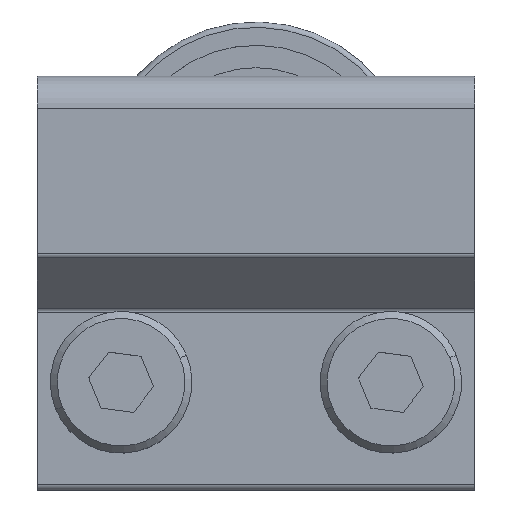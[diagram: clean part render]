
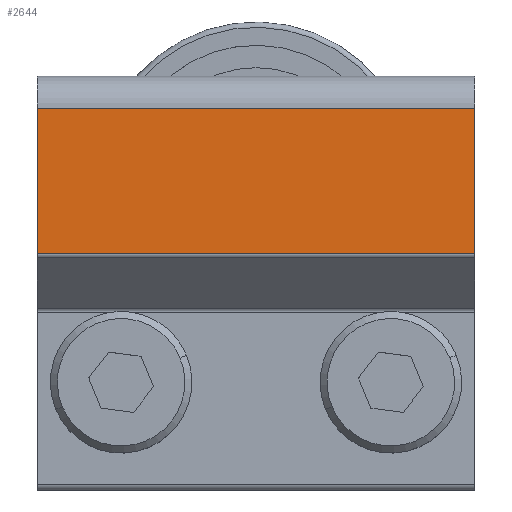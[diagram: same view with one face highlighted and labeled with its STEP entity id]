
A CAD part, top view. The second image highlights one B-rep face of the part: STEP entity #2644.
In plain terms, the highlighted planar face has unit normal (0, 0, 1) as drawn and (1, 0, 0) by its records, which use the part's own axes.
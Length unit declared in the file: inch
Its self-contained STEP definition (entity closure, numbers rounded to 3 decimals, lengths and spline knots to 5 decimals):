
#2134=DIRECTION('',(0.,0.,1.));
#2135=VECTOR('',#2134,1.216);
#2136=CARTESIAN_POINT('',(0.375,0.35921,-0.608));
#2137=LINE('',#2136,#2135);
#2138=DIRECTION('',(0.,-1.,0.));
#2139=VECTOR('',#2138,0.40379);
#2140=CARTESIAN_POINT('',(0.375,0.763,-0.608));
#2141=LINE('',#2140,#2139);
#2219=DIRECTION('',(0.,-1.,0.));
#2220=VECTOR('',#2219,0.40379);
#2221=CARTESIAN_POINT('',(0.375,0.763,0.608));
#2222=LINE('',#2221,#2220);
#2223=DIRECTION('',(0.,0.,-1.));
#2224=VECTOR('',#2223,1.216);
#2225=CARTESIAN_POINT('',(0.375,0.763,0.608));
#2226=LINE('',#2225,#2224);
#2441=CARTESIAN_POINT('',(0.375,0.35921,-0.608));
#2442=VERTEX_POINT('',#2441);
#2456=CARTESIAN_POINT('',(0.375,0.35921,0.608));
#2458=VERTEX_POINT('',#2456);
#2471=CARTESIAN_POINT('',(0.375,0.763,0.608));
#2472=VERTEX_POINT('',#2471);
#2473=CARTESIAN_POINT('',(0.375,0.763,-0.608));
#2474=VERTEX_POINT('',#2473);
#2632=CARTESIAN_POINT('',(0.375,0.763,0.608));
#2633=DIRECTION('',(-1.,0.,0.));
#2634=DIRECTION('',(0.,-1.,0.));
#2635=AXIS2_PLACEMENT_3D('',#2632,#2633,#2634);
#2636=PLANE('',#2635);
#2637=ORIENTED_EDGE('',*,*,#2549,.F.);
#2639=ORIENTED_EDGE('',*,*,#2638,.T.);
#2640=ORIENTED_EDGE('',*,*,#2590,.T.);
#2641=ORIENTED_EDGE('',*,*,#2580,.T.);
#2642=EDGE_LOOP('',(#2637,#2639,#2640,#2641));
#2643=FACE_OUTER_BOUND('',#2642,.F.);
#2549=EDGE_CURVE('',#2472,#2458,#2222,.T.);
#2580=EDGE_CURVE('',#2442,#2458,#2137,.T.);
#2590=EDGE_CURVE('',#2474,#2442,#2141,.T.);
#2638=EDGE_CURVE('',#2472,#2474,#2226,.T.);
#2644=ADVANCED_FACE('',(#2643),#2636,.F.);
